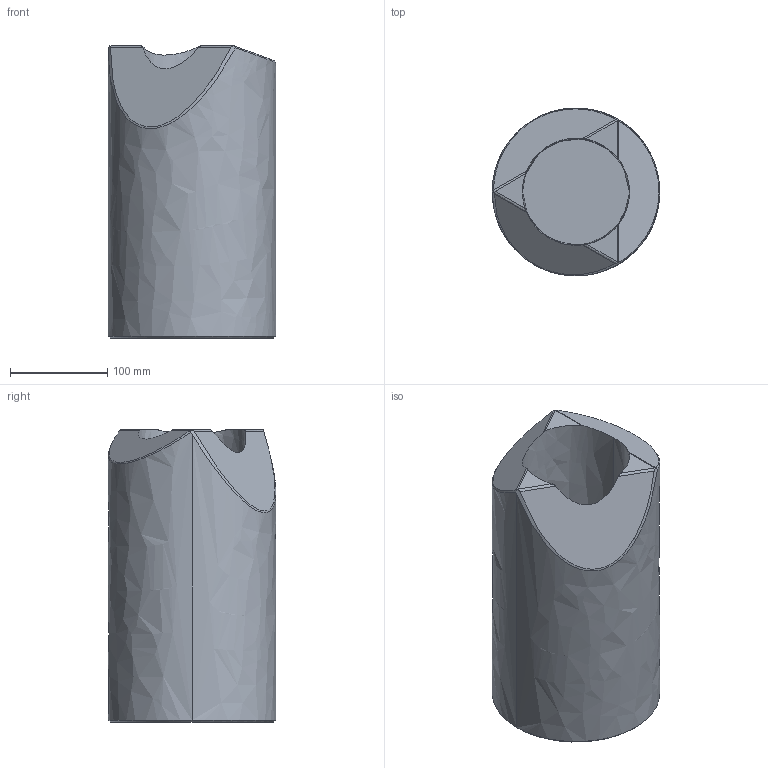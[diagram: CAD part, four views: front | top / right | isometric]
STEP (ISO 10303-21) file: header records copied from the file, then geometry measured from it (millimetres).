
FILE_DESCRIPTION(/* description */ (''),/* implementation_level */ '2;1');
FILE_NAME(/* name */ 'PAROS H',/* time_stamp */ '2017-05-31T12:18:27+02:00',/* author */ (''),/* organization */ (''),/* preprocessor_version */ 'ST-DEVELOPER v10',/* originating_system */ '',/* authorisation */ '');
FILE_SCHEMA (('CONFIG_CONTROL_DESIGN'));
Length unit declared in the file: millimetre
Products named in the file (1): 1
Bounding box: 172 x 172 x 300 mm (x, y, z)
Volume: 4160334 mm3; surface area: 286180.8 mm2
Topology: 1 solids, 1 shells, 27 faces, 93 edges, 69 vertices
Faces by surface type: bspline 18, plane 9
Entity records: 1767 total; most frequent: CARTESIAN_POINT 1140, ORIENTED_EDGE 186, EDGE_CURVE 93, B_SPLINE_CURVE_WITH_KNOTS 74, VERTEX_POINT 69, EDGE_LOOP 28, ADVANCED_FACE 27, FACE_OUTER_BOUND 27
